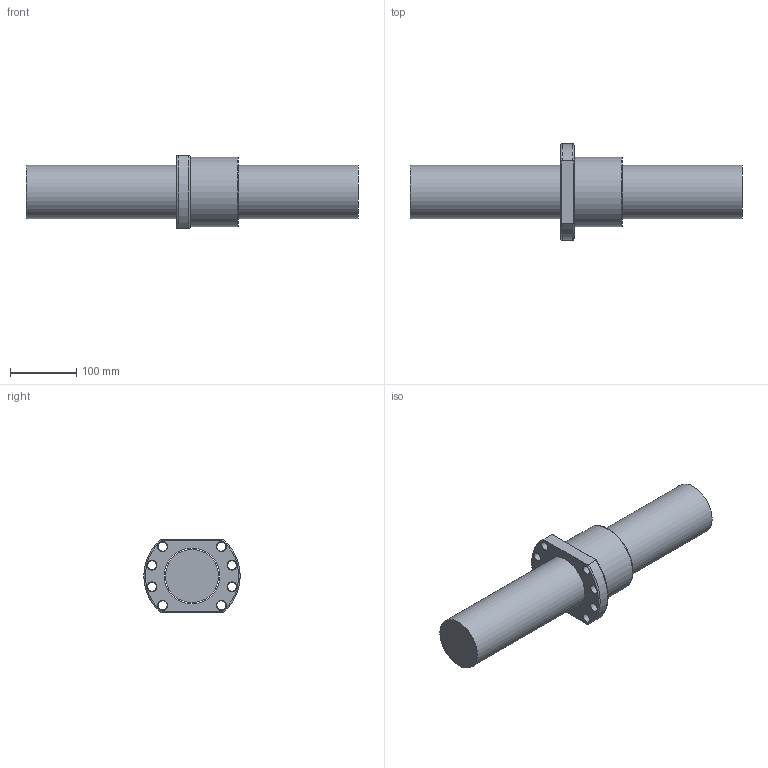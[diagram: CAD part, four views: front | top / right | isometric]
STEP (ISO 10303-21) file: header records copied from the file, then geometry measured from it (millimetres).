
FILE_DESCRIPTION (( 'STEP AP203' ), '1' );
FILE_NAME ('SFNU08010D-4.step', '2024-05-14T06:35:04', ( '' ), ( '' ), 'SwSTEP 2.0', 'SolidWorks 2022', '' );
FILE_SCHEMA (( 'CONFIG_CONTROL_DESIGN' ));
Length unit declared in the file: millimetre
Products named in the file (1): SFNU08010D-4
Bounding box: 500 x 145 x 110 mm (x, y, z)
Volume: 2889224.9 mm3; surface area: 214341.5 mm2
Topology: 2 solids, 2 shells, 60 faces, 155 edges, 100 vertices
Faces by surface type: cylinder 21, cone 17, plane 12, bspline 5, torus 5
Full cylindrical faces by diameter (mm): 4 x1, 7 x6, 13.5 x8, 80 x1, 84.1 x1, 105 x1
Entity records: 3349 total; most frequent: CARTESIAN_POINT 2187, DIRECTION 214, ORIENTED_EDGE 182, EDGE_LOOP 106, AXIS2_PLACEMENT_3D 99, EDGE_CURVE 91, VERTEX_POINT 75, FACE_OUTER_BOUND 68
